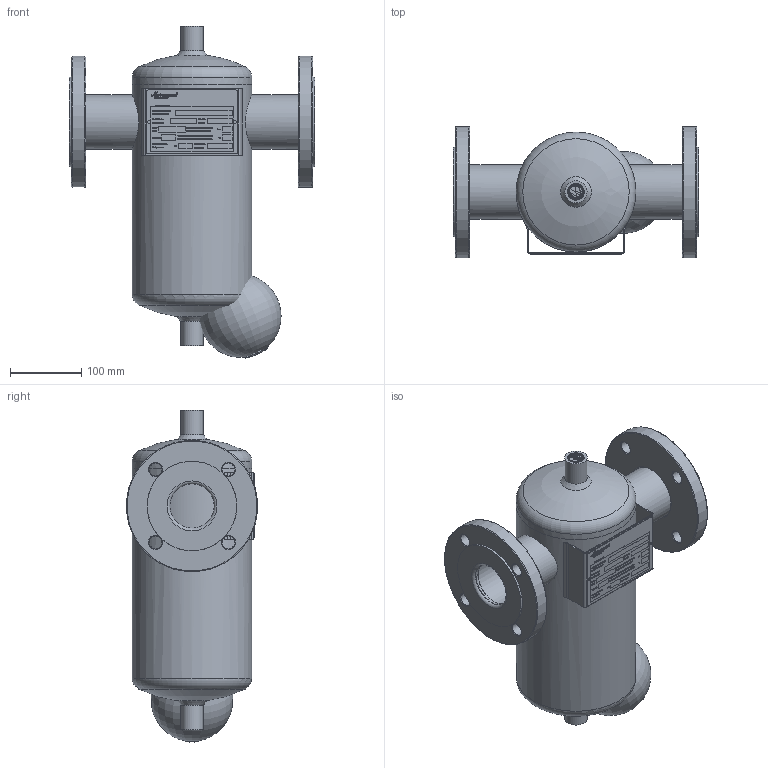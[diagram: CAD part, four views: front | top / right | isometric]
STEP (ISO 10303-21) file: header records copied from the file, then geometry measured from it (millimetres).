
FILE_DESCRIPTION(/* description */ ('Unknown'),/* implementation_level */ '2;1');
FILE_NAME(/* name */ 'DFL65',/* time_stamp */ '2020-01-28T14:22:06+01:00',/* author */ ('Unknown'),/* organization */ ('Unknown'),/* preprocessor_version */ 'ST-DEVELOPER v16.7',/* originating_system */ 'DEX',/* authorisation */ $);
FILE_SCHEMA (('AUTOMOTIVE_DESIGN {1 0 10303 214 3 1 1}'));
Length unit declared in the file: millimetre
Products named in the file (1): DFL65
Bounding box: 345 x 184.3 x 466.97 mm (x, y, z)
Volume: 8170002.7 mm3; surface area: 585949.4 mm2
Topology: 4 solids, 5 shells, 3092 faces, 7721 edges, 5128 vertices
Faces by surface type: plane 2156, bspline 801, cylinder 77, torus 35, cone 19, sphere 4
Full cylindrical faces by diameter (mm): 3.8 x2, 4.917 x1, 9.231 x1, 18 x8, 19 x1, 31.17 x4, 34.1 x1, 37 x1, 40 x1, 40.2 x1, 48 x1, 49 x1, 52 x1, 62 x1, 62.3 x2, 64.5 x2, 65 x1, 70.3 x2, 76.1 x2, 77.5 x2, 126 x2, 164.3 x1, 168.3 x2, 185 x2
Entity records: 157801 total; most frequent: CARTESIAN_POINT 71965, ORIENTED_EDGE 15030, DIRECTION 8910, EDGE_CURVE 7515, VERTEX_POINT 5086, LINE 3858, VECTOR 3858, FACE_BOUND 3773
